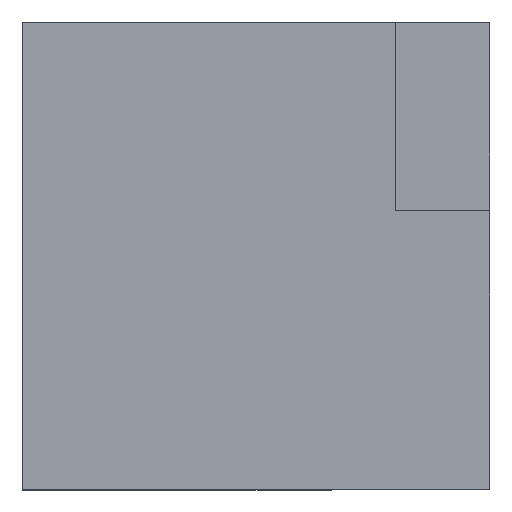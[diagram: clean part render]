
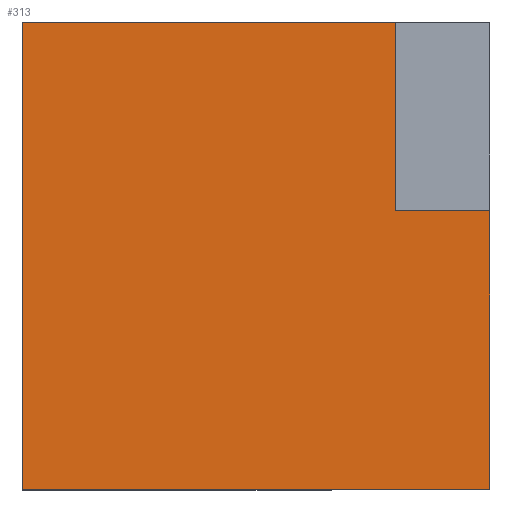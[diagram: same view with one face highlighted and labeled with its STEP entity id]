
A CAD part, top view. The second image highlights one B-rep face of the part: STEP entity #313.
In plain terms, the highlighted planar face has unit normal (0, 0, 1).
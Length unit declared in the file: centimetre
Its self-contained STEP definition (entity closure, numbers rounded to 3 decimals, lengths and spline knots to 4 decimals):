
#3 = LINE ( 'NONE', #75, #235 ) ;
#8 = CARTESIAN_POINT ( 'NONE',  ( 0., 1000., 1000. ) ) ;
#18 = VERTEX_POINT ( 'NONE', #140 ) ;
#20 = ORIENTED_EDGE ( 'NONE', *, *, #392, .T. ) ;
#27 = VERTEX_POINT ( 'NONE', #179 ) ;
#32 = LINE ( 'NONE', #8, #451 ) ;
#61 = EDGE_CURVE ( 'NONE', #312, #18, #76, .T. ) ;
#71 = EDGE_CURVE ( 'NONE', #312, #334, #32, .T. ) ;
#75 = CARTESIAN_POINT ( 'NONE',  ( 1000., 1000., 1000. ) ) ;
#76 = LINE ( 'NONE', #263, #385 ) ;
#94 = CARTESIAN_POINT ( 'NONE',  ( 798.5253, 596.1603, 1000. ) ) ;
#97 = CARTESIAN_POINT ( 'NONE',  ( 0., 1000., 1000. ) ) ;
#106 = VECTOR ( 'NONE', #403, 100. ) ;
#116 = AXIS2_PLACEMENT_3D ( 'NONE', #142, #461, #346 ) ;
#121 = VERTEX_POINT ( 'NONE', #468 ) ;
#140 = CARTESIAN_POINT ( 'NONE',  ( 798.5253, 596.1603, 1000. ) ) ;
#141 = ORIENTED_EDGE ( 'NONE', *, *, #71, .T. ) ;
#142 = CARTESIAN_POINT ( 'NONE',  ( 0., 0., 1000. ) ) ;
#145 = EDGE_CURVE ( 'NONE', #334, #27, #217, .T. ) ;
#149 = DIRECTION ( 'NONE',  ( -1., 0., 0. ) ) ;
#156 = CARTESIAN_POINT ( 'NONE',  ( 0., 0., 1000. ) ) ;
#158 = VECTOR ( 'NONE', #447, 100. ) ;
#168 = ORIENTED_EDGE ( 'NONE', *, *, #226, .T. ) ;
#179 = CARTESIAN_POINT ( 'NONE',  ( 0., 0., 1000. ) ) ;
#186 = LINE ( 'NONE', #156, #292 ) ;
#203 = EDGE_LOOP ( 'NONE', ( #209, #141, #408, #168, #20, #380 ) ) ;
#209 = ORIENTED_EDGE ( 'NONE', *, *, #61, .F. ) ;
#217 = LINE ( 'NONE', #297, #106 ) ;
#226 = EDGE_CURVE ( 'NONE', #27, #464, #186, .T. ) ;
#235 = VECTOR ( 'NONE', #434, 100. ) ;
#263 = CARTESIAN_POINT ( 'NONE',  ( 798.5253, 596.1603, 1000. ) ) ;
#266 = CARTESIAN_POINT ( 'NONE',  ( 1000., 0., 1000. ) ) ;
#291 = EDGE_CURVE ( 'NONE', #18, #121, #309, .T. ) ;
#292 = VECTOR ( 'NONE', #294, 100. ) ;
#294 = DIRECTION ( 'NONE',  ( 1., 0., 0. ) ) ;
#297 = CARTESIAN_POINT ( 'NONE',  ( 0., 1000., 1000. ) ) ;
#309 = LINE ( 'NONE', #94, #158 ) ;
#311 = PLANE ( 'NONE',  #116 ) ;
#312 = VERTEX_POINT ( 'NONE', #402 ) ;
#313 = ADVANCED_FACE ( 'NONE', ( #393 ), #311, .T. ) ;
#334 = VERTEX_POINT ( 'NONE', #97 ) ;
#346 = DIRECTION ( 'NONE',  ( 1., 0., 0. ) ) ;
#380 = ORIENTED_EDGE ( 'NONE', *, *, #291, .F. ) ;
#385 = VECTOR ( 'NONE', #442, 100. ) ;
#392 = EDGE_CURVE ( 'NONE', #464, #121, #3, .T. ) ;
#393 = FACE_OUTER_BOUND ( 'NONE', #203, .T. ) ;
#402 = CARTESIAN_POINT ( 'NONE',  ( 798.5253, 1000., 1000. ) ) ;
#403 = DIRECTION ( 'NONE',  ( 0., -1., 0. ) ) ;
#408 = ORIENTED_EDGE ( 'NONE', *, *, #145, .T. ) ;
#434 = DIRECTION ( 'NONE',  ( 0., 1., 0. ) ) ;
#442 = DIRECTION ( 'NONE',  ( 0., -1., 0. ) ) ;
#447 = DIRECTION ( 'NONE',  ( 1., 0., 0. ) ) ;
#451 = VECTOR ( 'NONE', #149, 100. ) ;
#461 = DIRECTION ( 'NONE',  ( 0., 0., 1. ) ) ;
#464 = VERTEX_POINT ( 'NONE', #266 ) ;
#468 = CARTESIAN_POINT ( 'NONE',  ( 1000., 596.1603, 1000. ) ) ;
